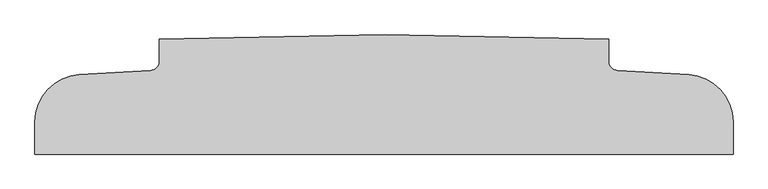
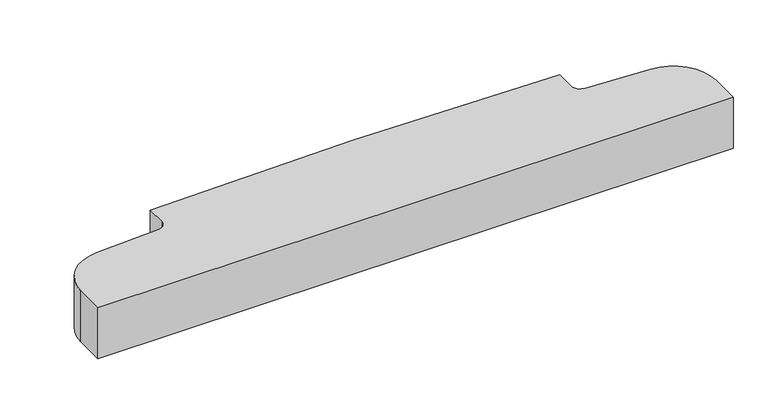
"""IFC4 building model written with IfcOpenShell, lengths in millimetres: proxy geometry, Diaphragm-EndCenter.sat."""

from ifc_helpers import new_model, si_unit, point, frame, frame_2d, origin, place, context, project, spatial, polyline, circle_curve, trimmed, segment, composite_curve, outline, extrude, source, transform, mapped, element, save


def generic_models_b2a3fb4c(model_context):
    return source(origin(), model_context, "Body", "SweptSolid", [
        extrude(outline(composite_curve([segment(trimmed(circle_curve(frame_2d((-3022.6, 1002.3355791)), 203.2), [point((-3225.8, 1002.3355791))], [point((-3034.6738676, 1205.1765555))], False, "CARTESIAN"), True, "CONTINUOUS"), segment(polyline([(-3034.6738676, 1205.1765555), (-2728.2361498, 1223.4168958)]), True, "CONTINUOUS"), segment(trimmed(circle_curve(frame_2d((-2730.5, 1261.4495789)), 38.1), [point((-2728.2361498, 1223.4168958))], [point((-2692.4, 1261.4495789))], True, "CARTESIAN"), True, "CONTINUOUS"), segment(polyline([(-2692.4, 1261.4495789), (-2692.4, 1357.884), (-1727.2, 1377.188), (-762.0, 1357.884), (-762.0, 1261.4495789)]), True, "CONTINUOUS"), segment(trimmed(circle_curve(frame_2d((-723.9, 1261.4495789)), 38.1), [point((-762.0, 1261.4495789))], [point((-726.1638502, 1223.4168958))], True, "CARTESIAN"), True, "CONTINUOUS"), segment(polyline([(-726.1638502, 1223.4168958), (-419.7261324, 1205.1765555)]), True, "CONTINUOUS"), segment(trimmed(circle_curve(frame_2d((-431.8, 1002.3355791)), 203.2), [point((-419.7261324, 1205.1765555))], [point((-228.6, 1002.3355791))], False, "CARTESIAN"), True, "CONTINUOUS"), segment(polyline([(-228.6, 1002.3355791), (-228.6, 863.6), (-3225.8, 863.6), (-3225.8, 1002.3355791)]), True, "CONTINUOUS")], self_intersect=False)), frame((0.0, 0.0, -127.0), z_axis=(0.0, 0.0, 1.0), x_axis=(1.0, 0.0, 0.0)), (0.0, 0.0, 1.0), 254.0),
    ])


if __name__ == "__main__":
    model = new_model("IFC4")
    model_context = context("Model", 3, world=origin())
    ifc_project = project(units=[si_unit("LENGTHUNIT", "METRE", prefix="MILLI")], contexts=[model_context])
    site = spatial("IfcSite", under=ifc_project)
    building = spatial("IfcBuilding", under=site)
    placement = place(None, origin())
    generic_models_shape = generic_models_b2a3fb4c(model_context)
    element("IfcBuildingElementProxy", 1, Name="Diaphragm-EndCenter.sat", ObjectType="Diaphragm-EndCenter.sat", at=placement, inside=building, context=model_context, shape_type="MappedRepresentation", body=[
        mapped(generic_models_shape, transform((0.0, 0.0, 0.0), x_axis=(1.0, 0.0, 0.0), y_axis=(0.0, 1.0, 0.0), z_axis=(0.0, 0.0, 1.0))),
    ])
    save(model, "model.ifc")
